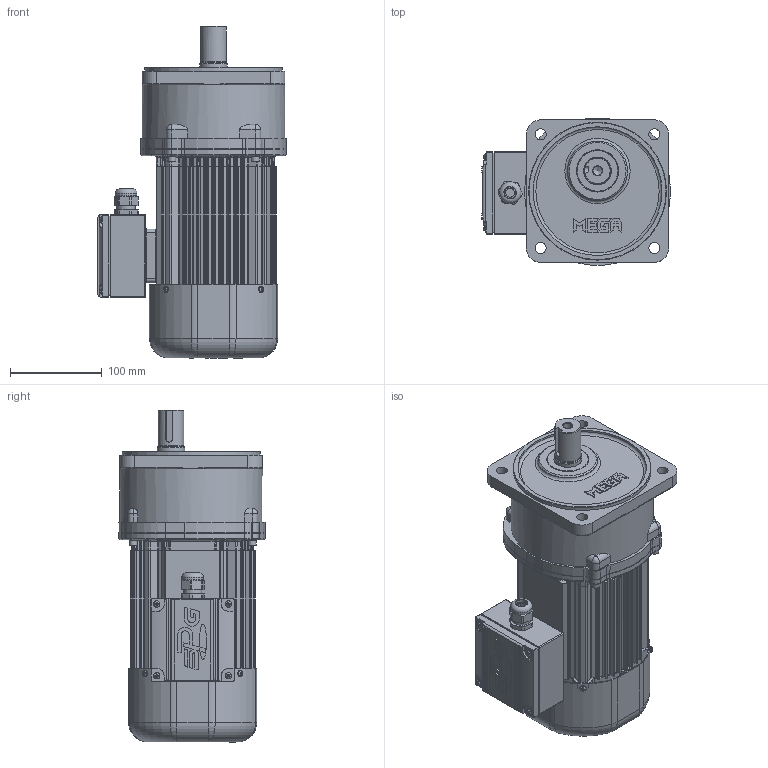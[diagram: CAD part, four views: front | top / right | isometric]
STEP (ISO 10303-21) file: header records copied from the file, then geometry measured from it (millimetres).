
FILE_DESCRIPTION(/* description */ (''),/* implementation_level */ '2;1');
FILE_NAME(/* name */ 'Z:\동력 3D 파일\PMK105_0.4kW_Brake_3D.stp',/* time_stamp */ '2021-11-18T16:32:47+09:00',/* author */ ('jaebok'),/* organization */ (''),/* preprocessor_version */ 'ST-DEVELOPER v18.1',/* originating_system */ 'Autodesk Inventor 2022',/* authorisation */ '');
FILE_SCHEMA (('AUTOMOTIVE_DESIGN { 1 0 10303 214 3 1 1 }'));
Products named in the file (1): 부품8
Bounding box: 205.2 x 159.41 x 361 mm (x, y, z)
Volume: 1864941.3 mm3; surface area: 613285.4 mm2
Topology: 2 solids, 33 shells, 3273 faces, 8213 edges, 4886 vertices
Faces by surface type: plane 1137, cylinder 951, bspline 637, torus 266, cone 186, sphere 96
Full cylindrical faces by diameter (mm): 1.5 x2, 2 x5, 3 x8, 3.242 x4, 3.25 x1, 3.3 x4, 3.6 x4, 3.8 x3, 4 x25, 4.134 x4, 4.2 x12, 5 x25, 5.5 x4, 5.8 x2, 5.9 x3, 6 x18, 6.4 x1, 6.5 x6, 7 x12, 7.9 x6, 8 x8, 8.5 x5, 8.7 x1, 10 x2, 12 x4, 12.5 x1, 15 x1, 18 x1, 19 x2, 20 x2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
Entity records: 128388 total; most frequent: CARTESIAN_POINT 50736, ORIENTED_EDGE 15896, DIRECTION 15132, EDGE_CURVE 7948, AXIS2_PLACEMENT_3D 6045, VERTEX_POINT 4881, EDGE_LOOP 3552, FACE_OUTER_BOUND 3272
